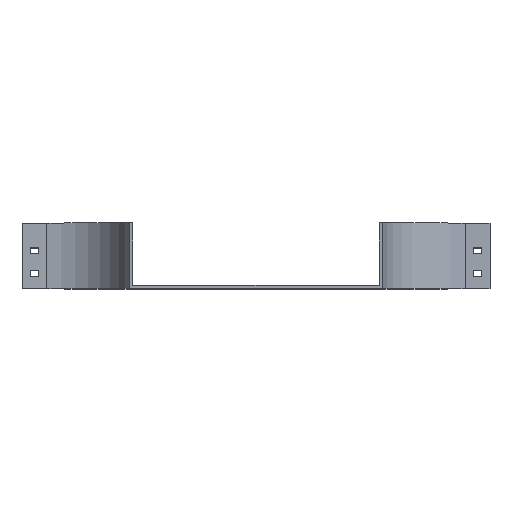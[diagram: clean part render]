
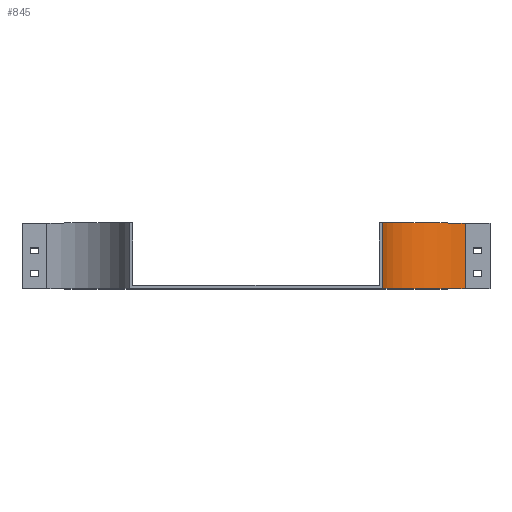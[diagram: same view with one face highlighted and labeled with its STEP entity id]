
A CAD part, top view. The second image highlights one B-rep face of the part: STEP entity #845.
In plain terms, the highlighted cylindrical face has radius 100 mm (diameter 200 mm), a partial arc.
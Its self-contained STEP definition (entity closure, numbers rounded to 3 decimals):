
#31 = CARTESIAN_POINT ( 'NONE',  ( 0., 79., 0. ) ) ;
#50 = DIRECTION ( 'NONE',  ( 0., 0., -1. ) ) ;
#103 = ORIENTED_EDGE ( 'NONE', *, *, #3039, .F. ) ;
#207 = CARTESIAN_POINT ( 'NONE',  ( -100., 79., 0. ) ) ;
#321 = VERTEX_POINT ( 'NONE', #3496 ) ;
#351 = CIRCLE ( 'NONE', #2313, 100. ) ;
#430 = VERTEX_POINT ( 'NONE', #1909 ) ;
#483 = ORIENTED_EDGE ( 'NONE', *, *, #3281, .T. ) ;
#528 = CARTESIAN_POINT ( 'NONE',  ( 0., 79., -100. ) ) ;
#553 = DIRECTION ( 'NONE',  ( 0., -1., 0. ) ) ;
#601 = EDGE_CURVE ( 'NONE', #1357, #321, #843, .T. ) ;
#681 = EDGE_CURVE ( 'NONE', #430, #1210, #351, .T. ) ;
#777 = DIRECTION ( 'NONE',  ( 0., -1., 0. ) ) ;
#843 = CIRCLE ( 'NONE', #3004, 100. ) ;
#845 = ADVANCED_FACE ( 'NONE', ( #2544 ), #1349, .F. ) ;
#979 = CARTESIAN_POINT ( 'NONE',  ( 0., 0., 0. ) ) ;
#1008 = CARTESIAN_POINT ( 'NONE',  ( -100., 79., 0. ) ) ;
#1210 = VERTEX_POINT ( 'NONE', #1712 ) ;
#1349 = CYLINDRICAL_SURFACE ( 'NONE', #1918, 100. ) ;
#1357 = VERTEX_POINT ( 'NONE', #1008 ) ;
#1424 = DIRECTION ( 'NONE',  ( 0., 0., -1. ) ) ;
#1674 = DIRECTION ( 'NONE',  ( 0., -1., 0. ) ) ;
#1712 = CARTESIAN_POINT ( 'NONE',  ( 0., 0., -100. ) ) ;
#1909 = CARTESIAN_POINT ( 'NONE',  ( -100., 0., 0. ) ) ;
#1918 = AXIS2_PLACEMENT_3D ( 'NONE', #3704, #777, #1927 ) ;
#1927 = DIRECTION ( 'NONE',  ( 0., 0., -1. ) ) ;
#1963 = LINE ( 'NONE', #207, #3340 ) ;
#1983 = ORIENTED_EDGE ( 'NONE', *, *, #681, .T. ) ;
#2313 = AXIS2_PLACEMENT_3D ( 'NONE', #979, #3371, #50 ) ;
#2544 = FACE_OUTER_BOUND ( 'NONE', #3529, .T. ) ;
#2949 = LINE ( 'NONE', #528, #3136 ) ;
#3004 = AXIS2_PLACEMENT_3D ( 'NONE', #31, #3825, #1424 ) ;
#3039 = EDGE_CURVE ( 'NONE', #321, #1210, #2949, .T. ) ;
#3136 = VECTOR ( 'NONE', #1674, 1000. ) ;
#3281 = EDGE_CURVE ( 'NONE', #1357, #430, #1963, .T. ) ;
#3340 = VECTOR ( 'NONE', #553, 1000. ) ;
#3371 = DIRECTION ( 'NONE',  ( 0., -1., 0. ) ) ;
#3496 = CARTESIAN_POINT ( 'NONE',  ( 0., 79., -100. ) ) ;
#3529 = EDGE_LOOP ( 'NONE', ( #1983, #103, #3535, #483 ) ) ;
#3535 = ORIENTED_EDGE ( 'NONE', *, *, #601, .F. ) ;
#3704 = CARTESIAN_POINT ( 'NONE',  ( 0., 79., 0. ) ) ;
#3825 = DIRECTION ( 'NONE',  ( 0., -1., 0. ) ) ;
